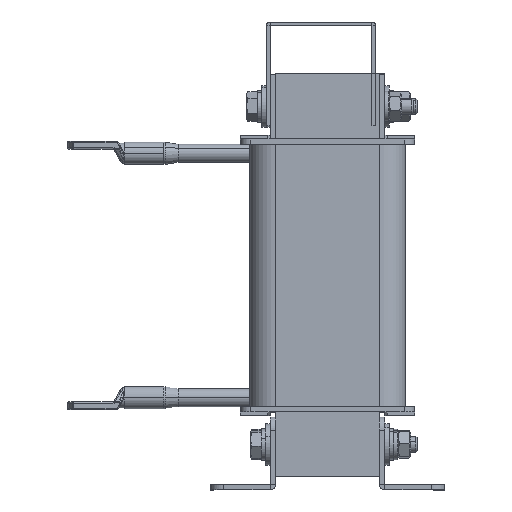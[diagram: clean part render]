
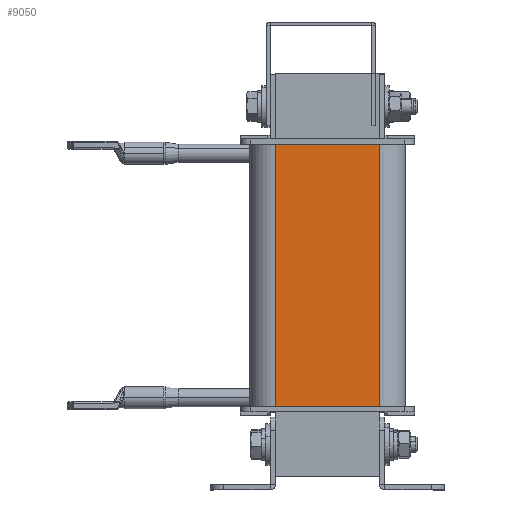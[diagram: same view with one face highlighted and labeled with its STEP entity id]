
A CAD part, left-side view. The second image highlights one B-rep face of the part: STEP entity #9050.
In plain terms, the highlighted planar face has unit normal (-1, 0, 0).
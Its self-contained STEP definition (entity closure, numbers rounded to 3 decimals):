
#183 = VECTOR ( 'NONE', #6740, 1000. ) ;
#787 = CARTESIAN_POINT ( 'NONE',  ( -27., 30., 0. ) ) ;
#1212 = CARTESIAN_POINT ( 'NONE',  ( -27., 20., -101. ) ) ;
#2023 = DIRECTION ( 'NONE',  ( 0., -1., 0. ) ) ;
#2240 = ORIENTED_EDGE ( 'NONE', *, *, #11548, .T. ) ;
#2584 = ORIENTED_EDGE ( 'NONE', *, *, #12025, .T. ) ;
#2692 = DIRECTION ( 'NONE',  ( 0., -1., 0. ) ) ;
#3939 = EDGE_CURVE ( 'NONE', #5680, #9237, #12750, .T. ) ;
#4043 = EDGE_CURVE ( 'NONE', #13897, #12260, #5267, .T. ) ;
#5267 = LINE ( 'NONE', #787, #12701 ) ;
#5680 = VERTEX_POINT ( 'NONE', #1212 ) ;
#5787 = VECTOR ( 'NONE', #9772, 1000. ) ;
#5920 = CARTESIAN_POINT ( 'NONE',  ( -27., -20., 0. ) ) ;
#6740 = DIRECTION ( 'NONE',  ( 0., 0., 1. ) ) ;
#6860 = VECTOR ( 'NONE', #2692, 1000. ) ;
#7685 = CARTESIAN_POINT ( 'NONE',  ( -27., -20., -101. ) ) ;
#7690 = DIRECTION ( 'NONE',  ( -1., 0., 0. ) ) ;
#8736 = CARTESIAN_POINT ( 'NONE',  ( -27., 30., -101. ) ) ;
#8806 = PLANE ( 'NONE',  #12051 ) ;
#9050 = ADVANCED_FACE ( 'NONE', ( #13118 ), #8806, .T. ) ;
#9237 = VERTEX_POINT ( 'NONE', #12237 ) ;
#9772 = DIRECTION ( 'NONE',  ( 0., 0., -1. ) ) ;
#9851 = CARTESIAN_POINT ( 'NONE',  ( -27., 20., -101. ) ) ;
#9979 = ORIENTED_EDGE ( 'NONE', *, *, #4043, .F. ) ;
#9989 = LINE ( 'NONE', #9851, #5787 ) ;
#10537 = CARTESIAN_POINT ( 'NONE',  ( -27., 30., -101. ) ) ;
#11548 = EDGE_CURVE ( 'NONE', #13897, #5680, #9989, .T. ) ;
#11996 = CARTESIAN_POINT ( 'NONE',  ( -27., 20., 0. ) ) ;
#12025 = EDGE_CURVE ( 'NONE', #9237, #12260, #12986, .T. ) ;
#12051 = AXIS2_PLACEMENT_3D ( 'NONE', #8736, #7690, #12166 ) ;
#12166 = DIRECTION ( 'NONE',  ( 0., 0., 1. ) ) ;
#12237 = CARTESIAN_POINT ( 'NONE',  ( -27., -20., -101. ) ) ;
#12260 = VERTEX_POINT ( 'NONE', #5920 ) ;
#12362 = EDGE_LOOP ( 'NONE', ( #9979, #2240, #13761, #2584 ) ) ;
#12701 = VECTOR ( 'NONE', #2023, 1000. ) ;
#12750 = LINE ( 'NONE', #10537, #6860 ) ;
#12986 = LINE ( 'NONE', #7685, #183 ) ;
#13118 = FACE_OUTER_BOUND ( 'NONE', #12362, .T. ) ;
#13761 = ORIENTED_EDGE ( 'NONE', *, *, #3939, .T. ) ;
#13897 = VERTEX_POINT ( 'NONE', #11996 ) ;
